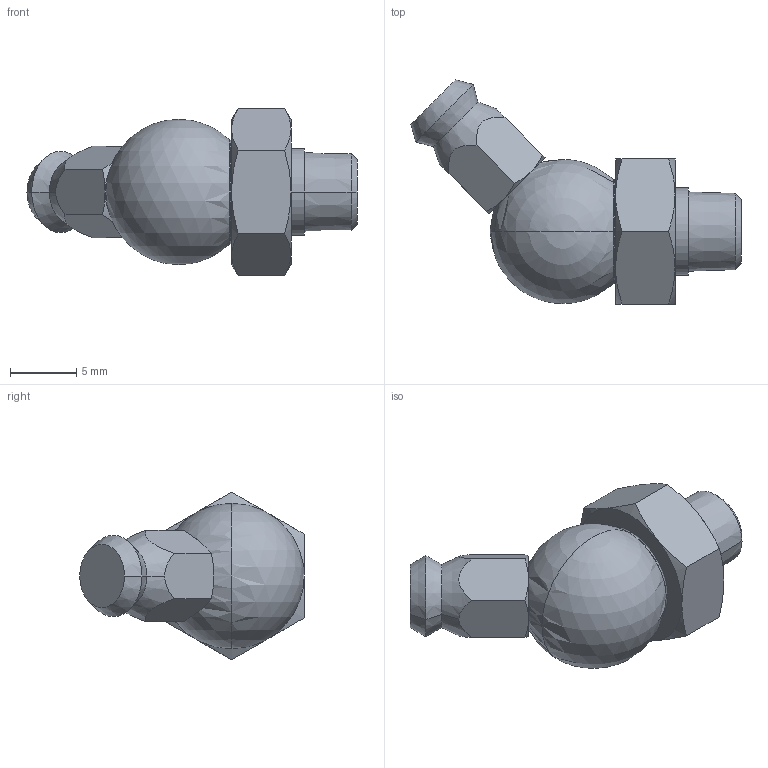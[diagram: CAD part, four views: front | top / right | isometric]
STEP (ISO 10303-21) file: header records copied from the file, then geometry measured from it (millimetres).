
FILE_DESCRIPTION( ( '' ), '1' );
FILE_NAME( '//partserver001.servicenet/client_exchange/iodir/jobs/output/wkb15066473_no0/STEP/michaud_chailly_d2_14_02_2_14b.stp', '2009-03-14T16:26:39', ( '' ), ( '' ), ' ', ' ', ' ' );
FILE_SCHEMA( ( 'automotive_design' ) );
Length unit declared in the file: millimetre
Products named in the file (1): 1
Bounding box: 25 x 17 x 12.7 mm (x, y, z)
Volume: 1515.2 mm3; surface area: 924.8 mm2
Topology: 1 solids, 1 shells, 54 faces, 123 edges, 72 vertices
Faces by surface type: cone 28, plane 18, torus 4, sphere 2, cylinder 2
Entity records: 2845 total; most frequent: CARTESIAN_POINT 334, STYLED_ITEM 246, PRESENTATION_STYLE_ASSIGNMENT 246, COLOUR_RGB 246, ORIENTED_EDGE 238, DIRECTION 236, EDGE_CURVE 119, CURVE_STYLE 119
